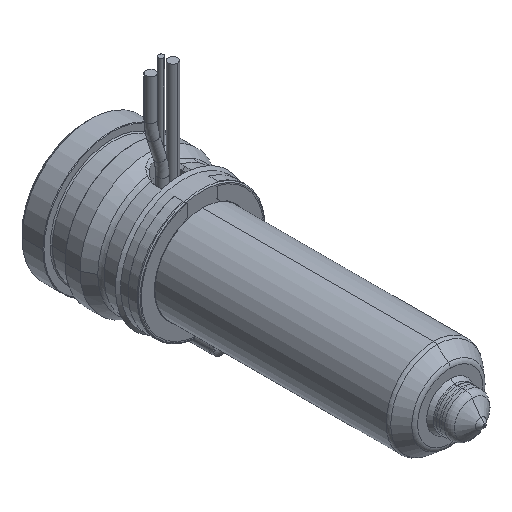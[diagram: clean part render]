
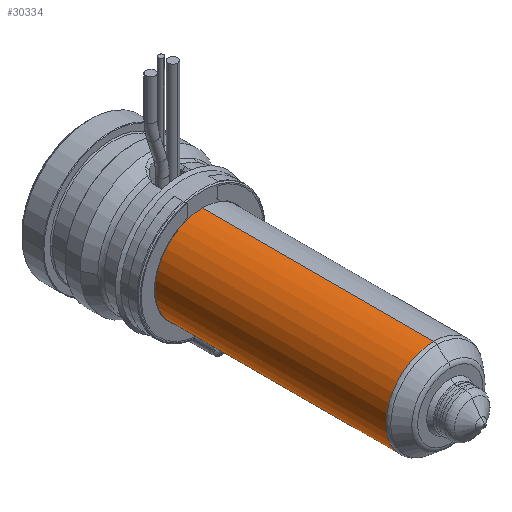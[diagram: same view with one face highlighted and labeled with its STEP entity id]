
A CAD part, isometric view. The second image highlights one B-rep face of the part: STEP entity #30334.
In plain terms, the highlighted cylindrical face has radius 9 mm (diameter 18 mm), a partial arc.
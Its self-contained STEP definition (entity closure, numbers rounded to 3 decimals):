
#29781=CARTESIAN_POINT('',(0.,-65.836,0.));
#29782=DIRECTION('',(0.,-1.,0.));
#29783=DIRECTION('',(0.,0.,1.));
#29784=AXIS2_PLACEMENT_3D('',#29781,#29782,#29783);
#29789=CARTESIAN_POINT('',(0.,-22.,0.));
#29790=DIRECTION('',(0.,-1.,0.));
#29791=DIRECTION('',(0.,0.,1.));
#29792=AXIS2_PLACEMENT_3D('',#29789,#29790,#29791);
#29797=DIRECTION('',(0.,-1.,0.));
#29798=VECTOR('',#29797,43.836);
#29799=CARTESIAN_POINT('',(0.,-22.,9.));
#29800=LINE('',#29799,#29798);
#29812=DIRECTION('',(0.,-1.,0.));
#29813=VECTOR('',#29812,43.836);
#29814=CARTESIAN_POINT('',(0.,-22.,-9.));
#29815=LINE('',#29814,#29813);
#30015=CARTESIAN_POINT('',(0.,-22.,9.));
#30016=CARTESIAN_POINT('',(0.,-65.836,9.));
#30017=VERTEX_POINT('',#30015);
#30018=VERTEX_POINT('',#30016);
#30037=CARTESIAN_POINT('',(0.,-22.,-9.));
#30038=CARTESIAN_POINT('',(0.,-65.836,-9.));
#30039=VERTEX_POINT('',#30037);
#30040=VERTEX_POINT('',#30038);
#30320=CARTESIAN_POINT('',(0.,-15.125,0.));
#30321=DIRECTION('',(0.,-1.,0.));
#30322=DIRECTION('',(0.,0.,1.));
#30323=AXIS2_PLACEMENT_3D('',#30320,#30321,#30322);
#30324=CYLINDRICAL_SURFACE('',#30323,9.);
#30326=ORIENTED_EDGE('',*,*,#30325,.T.);
#30327=ORIENTED_EDGE('',*,*,#30315,.T.);
#30329=ORIENTED_EDGE('',*,*,#30328,.F.);
#30331=ORIENTED_EDGE('',*,*,#30330,.F.);
#30332=EDGE_LOOP('',(#30326,#30327,#30329,#30331));
#30333=FACE_OUTER_BOUND('',#30332,.F.);
#30334=ADVANCED_FACE('',(#30333),#30324,.T.);
#29785=CIRCLE('',#29784,9.);
#29793=CIRCLE('',#29792,9.);
#30315=EDGE_CURVE('',#30018,#30040,#29785,.T.);
#30325=EDGE_CURVE('',#30017,#30018,#29800,.T.);
#30328=EDGE_CURVE('',#30039,#30040,#29815,.T.);
#30330=EDGE_CURVE('',#30017,#30039,#29793,.T.);
